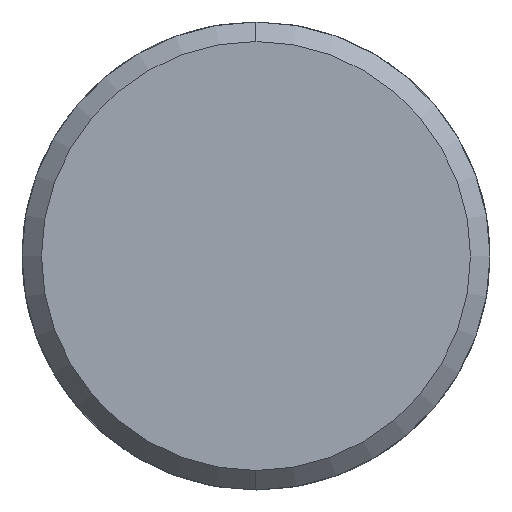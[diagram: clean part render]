
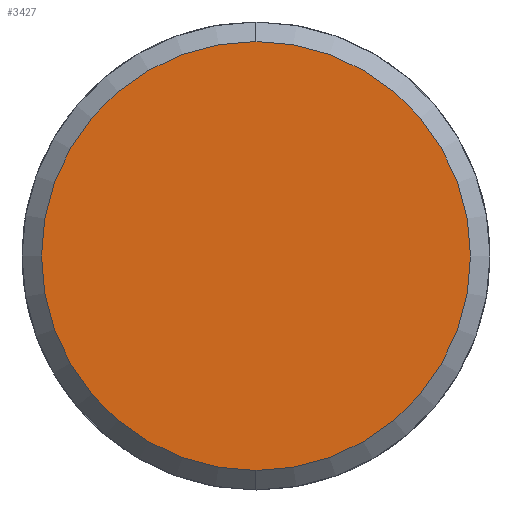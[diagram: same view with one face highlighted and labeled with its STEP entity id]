
A CAD part, left-side view. The second image highlights one B-rep face of the part: STEP entity #3427.
In plain terms, the highlighted planar face has unit normal (-1, 0, 0).
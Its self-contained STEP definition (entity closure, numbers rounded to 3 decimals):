
#122 = CARTESIAN_POINT ( 'NONE',  ( 0., 0., 5.5 ) ) ;
#220 = CIRCLE ( 'NONE', #436, 5.5 ) ;
#436 = AXIS2_PLACEMENT_3D ( 'NONE', #5894, #2594, #6430 ) ;
#751 = ORIENTED_EDGE ( 'NONE', *, *, #985, .F. ) ;
#901 = DIRECTION ( 'NONE',  ( 0., 0., 1. ) ) ;
#923 = DIRECTION ( 'NONE',  ( -1., 0., 0. ) ) ;
#948 = CARTESIAN_POINT ( 'NONE',  ( 0., 0., 0. ) ) ;
#985 = EDGE_CURVE ( 'NONE', #1018, #4590, #7086, .T. ) ;
#1018 = VERTEX_POINT ( 'NONE', #4471 ) ;
#1060 = PLANE ( 'NONE',  #5149 ) ;
#2594 = DIRECTION ( 'NONE',  ( 1., 0., 0. ) ) ;
#3016 = FACE_OUTER_BOUND ( 'NONE', #4013, .T. ) ;
#3239 = AXIS2_PLACEMENT_3D ( 'NONE', #4460, #4455, #4449 ) ;
#3427 = ADVANCED_FACE ( 'NONE', ( #3016 ), #1060, .T. ) ;
#4013 = EDGE_LOOP ( 'NONE', ( #751, #5950 ) ) ;
#4449 = DIRECTION ( 'NONE',  ( 0., 0., -1. ) ) ;
#4455 = DIRECTION ( 'NONE',  ( 1., 0., 0. ) ) ;
#4460 = CARTESIAN_POINT ( 'NONE',  ( 0., 0., 0. ) ) ;
#4471 = CARTESIAN_POINT ( 'NONE',  ( 0., 0., -5.5 ) ) ;
#4590 = VERTEX_POINT ( 'NONE', #122 ) ;
#5149 = AXIS2_PLACEMENT_3D ( 'NONE', #948, #923, #901 ) ;
#5347 = EDGE_CURVE ( 'NONE', #4590, #1018, #220, .T. ) ;
#5894 = CARTESIAN_POINT ( 'NONE',  ( 0., 0., 0. ) ) ;
#5950 = ORIENTED_EDGE ( 'NONE', *, *, #5347, .F. ) ;
#6430 = DIRECTION ( 'NONE',  ( 0., 0., -1. ) ) ;
#7086 = CIRCLE ( 'NONE', #3239, 5.5 ) ;
